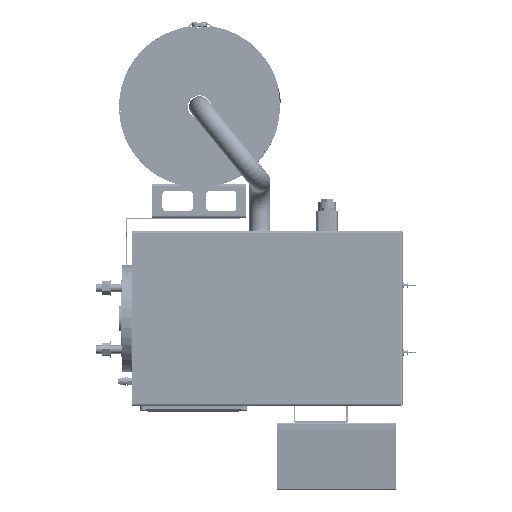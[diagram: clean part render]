
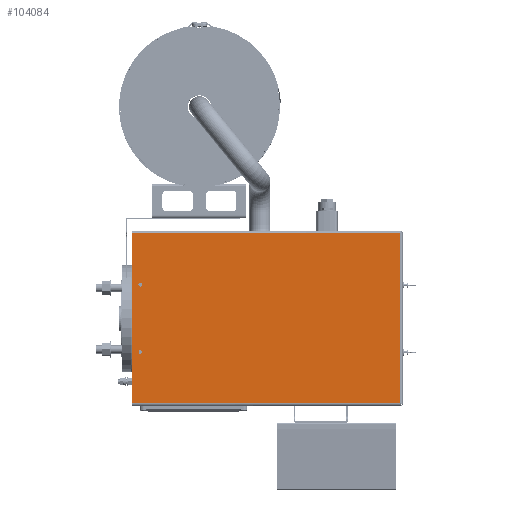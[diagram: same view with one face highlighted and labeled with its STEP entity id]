
A CAD part, top view. The second image highlights one B-rep face of the part: STEP entity #104084.
In plain terms, the highlighted planar face has unit normal (0, 0, 1).
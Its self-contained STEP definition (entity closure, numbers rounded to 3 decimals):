
#4967=LINE('',#158456,#12141);
#5040=LINE('',#158710,#12214);
#5054=LINE('',#158772,#12228);
#5069=LINE('',#158848,#12243);
#12141=VECTOR('',#129519,1000.);
#12214=VECTOR('',#129756,1000.);
#12228=VECTOR('',#129782,1000.);
#12243=VECTOR('',#129807,1000.);
#18293=PLANE('',#111772);
#21709=CIRCLE('',#111750,2.);
#21711=CIRCLE('',#111753,2.);
#37567=ORIENTED_EDGE('',*,*,#52152,.F.);
#37568=ORIENTED_EDGE('',*,*,#52150,.F.);
#37569=ORIENTED_EDGE('',*,*,#52039,.F.);
#37570=ORIENTED_EDGE('',*,*,#52159,.F.);
#37571=ORIENTED_EDGE('',*,*,#52176,.T.);
#37572=ORIENTED_EDGE('',*,*,#52193,.T.);
#52039=EDGE_CURVE('',#60895,#60896,#4967,.T.);
#52150=EDGE_CURVE('',#60977,#60977,#21709,.T.);
#52152=EDGE_CURVE('',#60979,#60979,#21711,.T.);
#52159=EDGE_CURVE('',#60984,#60895,#5040,.T.);
#52176=EDGE_CURVE('',#60984,#60991,#5054,.T.);
#52193=EDGE_CURVE('',#60991,#60896,#5069,.T.);
#60895=VERTEX_POINT('',#158455);
#60896=VERTEX_POINT('',#158457);
#60977=VERTEX_POINT('',#158683);
#60979=VERTEX_POINT('',#158688);
#60984=VERTEX_POINT('',#158709);
#60991=VERTEX_POINT('',#158771);
#68828=EDGE_LOOP('',(#37567));
#68829=EDGE_LOOP('',(#37568));
#68830=EDGE_LOOP('',(#37569,#37570,#37571,#37572));
#75157=FACE_BOUND('',#68828,.T.);
#75158=FACE_BOUND('',#68829,.T.);
#75159=FACE_BOUND('',#68830,.T.);
#104084=ADVANCED_FACE('',(#75157,#75158,#75159),#18293,.T.);
#111750=AXIS2_PLACEMENT_3D('',#158682,#129739,#129740);
#111753=AXIS2_PLACEMENT_3D('',#158687,#129745,#129746);
#111772=AXIS2_PLACEMENT_3D('',#158888,#129823,#129824);
#129519=DIRECTION('',(1.,0.,0.));
#129739=DIRECTION('',(0.,0.,1.));
#129740=DIRECTION('',(-1.,0.,0.));
#129745=DIRECTION('',(0.,0.,1.));
#129746=DIRECTION('',(-1.,0.,0.));
#129756=DIRECTION('',(0.,1.,0.));
#129782=DIRECTION('',(1.,0.,0.));
#129807=DIRECTION('',(0.,1.,0.));
#129823=DIRECTION('',(0.,0.,1.));
#129824=DIRECTION('',(1.,0.,0.));
#158455=CARTESIAN_POINT('',(-126.5,401.5,0.));
#158456=CARTESIAN_POINT('',(-133.822,401.5,0.));
#158457=CARTESIAN_POINT('',(126.5,401.5,0.));
#158682=CARTESIAN_POINT('',(-50.,389.,0.));
#158683=CARTESIAN_POINT('',(-52.,389.,0.));
#158687=CARTESIAN_POINT('',(50.,389.,0.));
#158688=CARTESIAN_POINT('',(48.,389.,0.));
#158709=CARTESIAN_POINT('',(-126.5,2.,0.));
#158710=CARTESIAN_POINT('',(-126.5,2.,0.));
#158771=CARTESIAN_POINT('',(126.5,2.,0.));
#158772=CARTESIAN_POINT('',(126.5,2.,0.));
#158848=CARTESIAN_POINT('',(126.5,405.,0.));
#158888=CARTESIAN_POINT('',(-128.5,405.,0.));
